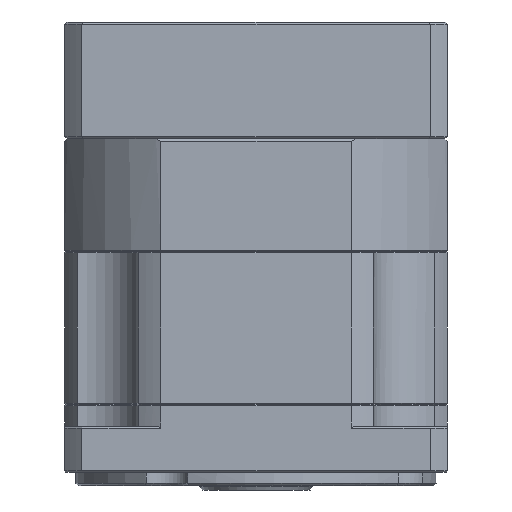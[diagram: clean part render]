
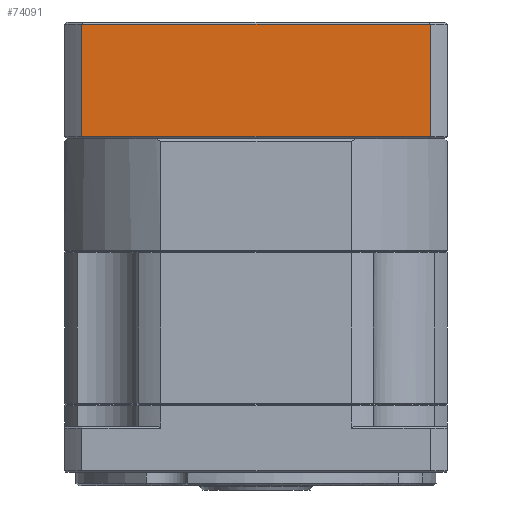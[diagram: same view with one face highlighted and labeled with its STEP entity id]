
A CAD part, front view. The second image highlights one B-rep face of the part: STEP entity #74091.
In plain terms, the highlighted planar face has unit normal (0, -1, 0).
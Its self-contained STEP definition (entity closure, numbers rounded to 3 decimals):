
#422 = EDGE_CURVE ( 'NONE', #113524, #74938, #111445, .T. ) ;
#609 = LINE ( 'NONE', #90521, #63423 ) ;
#3378 = LINE ( 'NONE', #7213, #24553 ) ;
#7201 = AXIS2_PLACEMENT_3D ( 'NONE', #21735, #48427, #123594 ) ;
#7213 = CARTESIAN_POINT ( 'NONE',  ( -12.931, -0.241, 29.516 ) ) ;
#9914 = VERTEX_POINT ( 'NONE', #120938 ) ;
#13490 = ORIENTED_EDGE ( 'NONE', *, *, #109574, .F. ) ;
#16561 = DIRECTION ( 'NONE',  ( 1., 0., 0. ) ) ;
#17421 = EDGE_LOOP ( 'NONE', ( #91170, #37015, #73155, #13490 ) ) ;
#21735 = CARTESIAN_POINT ( 'NONE',  ( -12.931, -0.241, 30.016 ) ) ;
#24553 = VECTOR ( 'NONE', #72437, 1000. ) ;
#28463 = PLANE ( 'NONE',  #7201 ) ;
#35852 = LINE ( 'NONE', #60936, #58257 ) ;
#36309 = CARTESIAN_POINT ( 'NONE',  ( -90.391, -0.241, 4.516 ) ) ;
#37015 = ORIENTED_EDGE ( 'NONE', *, *, #103592, .F. ) ;
#48427 = DIRECTION ( 'NONE',  ( 0., 1., 0. ) ) ;
#53708 = CARTESIAN_POINT ( 'NONE',  ( -12.931, -0.241, 4.516 ) ) ;
#58257 = VECTOR ( 'NONE', #80592, 1000. ) ;
#60936 = CARTESIAN_POINT ( 'NONE',  ( -12.931, -0.241, 30.016 ) ) ;
#61747 = DIRECTION ( 'NONE',  ( 0., 0., 1. ) ) ;
#63423 = VECTOR ( 'NONE', #61747, 1000. ) ;
#63571 = FACE_OUTER_BOUND ( 'NONE', #17421, .T. ) ;
#63589 = VECTOR ( 'NONE', #16561, 1000. ) ;
#72437 = DIRECTION ( 'NONE',  ( 1., 0., 0. ) ) ;
#73155 = ORIENTED_EDGE ( 'NONE', *, *, #90765, .F. ) ;
#73770 = CARTESIAN_POINT ( 'NONE',  ( -12.931, -0.241, 4.516 ) ) ;
#74091 = ADVANCED_FACE ( 'NONE', ( #63571 ), #28463, .F. ) ;
#74938 = VERTEX_POINT ( 'NONE', #53708 ) ;
#80592 = DIRECTION ( 'NONE',  ( 0., 0., -1. ) ) ;
#83778 = VERTEX_POINT ( 'NONE', #106492 ) ;
#90521 = CARTESIAN_POINT ( 'NONE',  ( -90.391, -0.241, 30.016 ) ) ;
#90765 = EDGE_CURVE ( 'NONE', #83778, #9914, #3378, .T. ) ;
#91170 = ORIENTED_EDGE ( 'NONE', *, *, #422, .T. ) ;
#103592 = EDGE_CURVE ( 'NONE', #9914, #74938, #35852, .T. ) ;
#106492 = CARTESIAN_POINT ( 'NONE',  ( -90.391, -0.241, 29.516 ) ) ;
#109574 = EDGE_CURVE ( 'NONE', #113524, #83778, #609, .T. ) ;
#111445 = LINE ( 'NONE', #73770, #63589 ) ;
#113524 = VERTEX_POINT ( 'NONE', #36309 ) ;
#120938 = CARTESIAN_POINT ( 'NONE',  ( -12.931, -0.241, 29.516 ) ) ;
#123594 = DIRECTION ( 'NONE',  ( -1., 0., 0. ) ) ;
